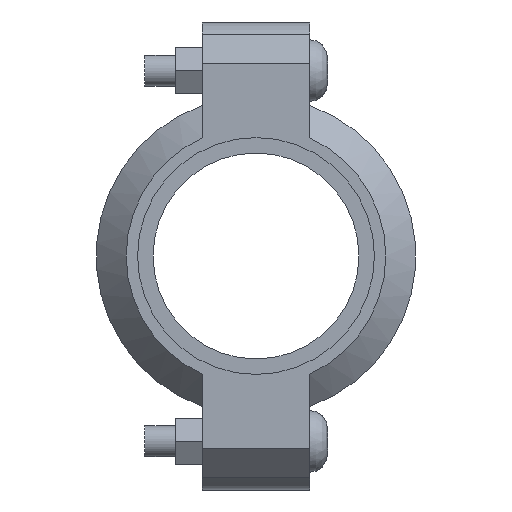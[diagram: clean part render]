
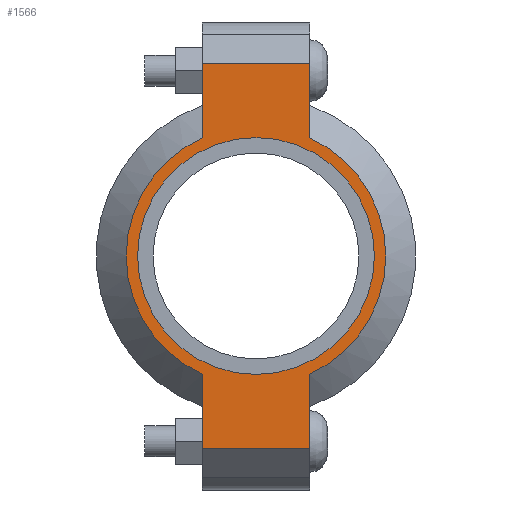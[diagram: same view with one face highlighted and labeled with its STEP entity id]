
A CAD part, left-side view. The second image highlights one B-rep face of the part: STEP entity #1566.
In plain terms, the highlighted planar face has unit normal (-1, 0, 0) as drawn and (0, 0, 1) by its records, which use the part's own axes.
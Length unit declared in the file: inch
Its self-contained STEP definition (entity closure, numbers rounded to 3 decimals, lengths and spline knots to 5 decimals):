
#190=LINE('',#2733,#283);
#198=LINE('',#2769,#291);
#205=LINE('',#2790,#298);
#214=LINE('',#2822,#307);
#215=LINE('',#2826,#308);
#216=LINE('',#2828,#309);
#283=VECTOR('',#2225,0.3937);
#291=VECTOR('',#2241,0.3937);
#298=VECTOR('',#2260,0.3937);
#307=VECTOR('',#2285,0.3937);
#308=VECTOR('',#2290,0.3937);
#309=VECTOR('',#2291,0.3937);
#365=FACE_BOUND('',#543,.T.);
#437=FACE_OUTER_BOUND('',#542,.T.);
#542=EDGE_LOOP('',(#1307,#1308,#1309,#1310,#1311,#1312,#1313,#1314));
#543=EDGE_LOOP('',(#1315));
#615=CIRCLE('',#1785,1.4375);
#641=CIRCLE('',#1844,1.575);
#642=CIRCLE('',#1845,1.575);
#707=VERTEX_POINT('',#2549);
#750=VERTEX_POINT('',#2730);
#751=VERTEX_POINT('',#2732);
#762=VERTEX_POINT('',#2764);
#763=VERTEX_POINT('',#2768);
#770=VERTEX_POINT('',#2787);
#771=VERTEX_POINT('',#2789);
#781=VERTEX_POINT('',#2825);
#782=VERTEX_POINT('',#2827);
#863=EDGE_CURVE('',#707,#707,#615,.T.);
#924=EDGE_CURVE('',#751,#750,#190,.T.);
#938=EDGE_CURVE('',#763,#762,#198,.T.);
#948=EDGE_CURVE('',#771,#770,#205,.T.);
#963=EDGE_CURVE('',#763,#750,#214,.T.);
#964=EDGE_CURVE('',#762,#771,#641,.T.);
#965=EDGE_CURVE('',#781,#770,#215,.T.);
#966=EDGE_CURVE('',#781,#782,#216,.T.);
#967=EDGE_CURVE('',#782,#751,#642,.T.);
#1307=ORIENTED_EDGE('',*,*,#963,.F.);
#1308=ORIENTED_EDGE('',*,*,#938,.T.);
#1309=ORIENTED_EDGE('',*,*,#964,.T.);
#1310=ORIENTED_EDGE('',*,*,#948,.T.);
#1311=ORIENTED_EDGE('',*,*,#965,.F.);
#1312=ORIENTED_EDGE('',*,*,#966,.T.);
#1313=ORIENTED_EDGE('',*,*,#967,.T.);
#1314=ORIENTED_EDGE('',*,*,#924,.T.);
#1315=ORIENTED_EDGE('',*,*,#863,.T.);
#1408=PLANE('',#1843);
#1566=ADVANCED_FACE('',(#437,#365),#1408,.T.);
#1785=AXIS2_PLACEMENT_3D('',#2551,#2101,#2102);
#1843=AXIS2_PLACEMENT_3D('',#2823,#2286,#2287);
#1844=AXIS2_PLACEMENT_3D('',#2824,#2288,#2289);
#1845=AXIS2_PLACEMENT_3D('',#2829,#2292,#2293);
#2101=DIRECTION('center_axis',(0.,0.,-1.));
#2102=DIRECTION('ref_axis',(-1.,0.,0.));
#2225=DIRECTION('',(-1.,0.,0.));
#2241=DIRECTION('',(1.,0.,0.));
#2260=DIRECTION('',(1.,0.,0.));
#2285=DIRECTION('',(0.,1.,0.));
#2286=DIRECTION('center_axis',(0.,0.,1.));
#2287=DIRECTION('ref_axis',(1.,0.,0.));
#2288=DIRECTION('center_axis',(0.,0.,1.));
#2289=DIRECTION('ref_axis',(-1.,0.,0.));
#2290=DIRECTION('',(0.,-1.,0.));
#2291=DIRECTION('',(-1.,0.,0.));
#2292=DIRECTION('center_axis',(0.,0.,1.));
#2293=DIRECTION('ref_axis',(-1.,0.,0.));
#2549=CARTESIAN_POINT('',(1.4375,0.,0.94));
#2551=CARTESIAN_POINT('Origin',(0.,0.,0.94));
#2730=CARTESIAN_POINT('',(-2.34,0.65,0.94));
#2732=CARTESIAN_POINT('',(-1.43462,0.65,0.94));
#2733=CARTESIAN_POINT('',(-2.84,0.65,0.94));
#2764=CARTESIAN_POINT('',(-1.43462,-0.65,0.94));
#2768=CARTESIAN_POINT('',(-2.34,-0.65,0.94));
#2769=CARTESIAN_POINT('',(2.84,-0.65,0.94));
#2787=CARTESIAN_POINT('',(2.34,-0.65,0.94));
#2789=CARTESIAN_POINT('',(1.43462,-0.65,0.94));
#2790=CARTESIAN_POINT('',(2.84,-0.65,0.94));
#2822=CARTESIAN_POINT('',(-2.34,0.325,0.94));
#2823=CARTESIAN_POINT('Origin',(0.,0.,
0.94));
#2824=CARTESIAN_POINT('Origin',(0.,0.,0.94));
#2825=CARTESIAN_POINT('',(2.34,0.65,0.94));
#2826=CARTESIAN_POINT('',(2.34,-0.325,0.94));
#2827=CARTESIAN_POINT('',(1.43462,0.65,0.94));
#2828=CARTESIAN_POINT('',(-2.84,0.65,0.94));
#2829=CARTESIAN_POINT('Origin',(0.,0.,0.94));
